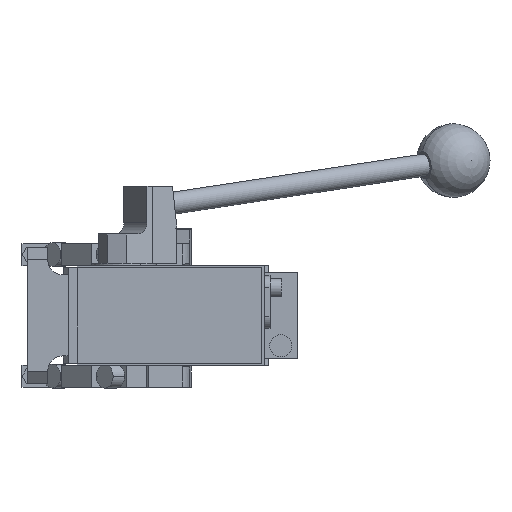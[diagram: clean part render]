
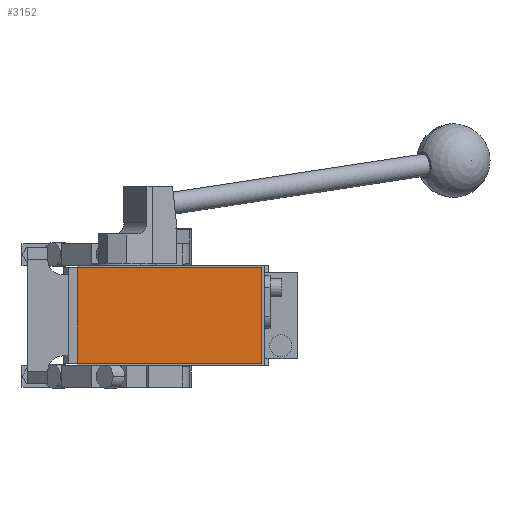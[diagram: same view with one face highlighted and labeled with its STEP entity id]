
A CAD part, front view. The second image highlights one B-rep face of the part: STEP entity #3152.
In plain terms, the highlighted planar face has unit normal (0, -1, 0).
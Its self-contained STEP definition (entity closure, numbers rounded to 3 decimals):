
#104 = EDGE_CURVE ( 'NONE', #13049, #15028, #6447, .T. ) ;
#308 = VECTOR ( 'NONE', #12492, 1000. ) ;
#700 = CARTESIAN_POINT ( 'NONE',  ( 81., -286.5, 26. ) ) ;
#1473 = VERTEX_POINT ( 'NONE', #1774 ) ;
#1746 = LINE ( 'NONE', #12709, #15981 ) ;
#1774 = CARTESIAN_POINT ( 'NONE',  ( 81., -286.5, -26. ) ) ;
#1943 = ORIENTED_EDGE ( 'NONE', *, *, #12541, .T. ) ;
#3152 = ADVANCED_FACE ( 'NONE', ( #13020 ), #11716, .T. ) ;
#3196 = ORIENTED_EDGE ( 'NONE', *, *, #8242, .T. ) ;
#4090 = VECTOR ( 'NONE', #11899, 1000. ) ;
#4326 = EDGE_LOOP ( 'NONE', ( #10102, #8382, #3196, #1943 ) ) ;
#5036 = CARTESIAN_POINT ( 'NONE',  ( -19., -286.5, 26. ) ) ;
#5399 = AXIS2_PLACEMENT_3D ( 'NONE', #14339, #5411, #9173 ) ;
#5411 = DIRECTION ( 'NONE',  ( 0., -1., 0. ) ) ;
#5745 = LINE ( 'NONE', #700, #4090 ) ;
#6281 = CARTESIAN_POINT ( 'NONE',  ( -19., -286.5, -26. ) ) ;
#6447 = LINE ( 'NONE', #8808, #308 ) ;
#6797 = LINE ( 'NONE', #13356, #11102 ) ;
#6867 = CARTESIAN_POINT ( 'NONE',  ( 81., -286.5, 26. ) ) ;
#8242 = EDGE_CURVE ( 'NONE', #1473, #15539, #5745, .T. ) ;
#8382 = ORIENTED_EDGE ( 'NONE', *, *, #9417, .T. ) ;
#8808 = CARTESIAN_POINT ( 'NONE',  ( -19., -286.5, 26. ) ) ;
#9173 = DIRECTION ( 'NONE',  ( 0., 0., -1. ) ) ;
#9417 = EDGE_CURVE ( 'NONE', #15028, #1473, #1746, .T. ) ;
#10102 = ORIENTED_EDGE ( 'NONE', *, *, #104, .T. ) ;
#11102 = VECTOR ( 'NONE', #11807, 1000. ) ;
#11716 = PLANE ( 'NONE',  #5399 ) ;
#11807 = DIRECTION ( 'NONE',  ( -1., 0., 0. ) ) ;
#11899 = DIRECTION ( 'NONE',  ( 0., 0., 1. ) ) ;
#12492 = DIRECTION ( 'NONE',  ( 0., 0., -1. ) ) ;
#12541 = EDGE_CURVE ( 'NONE', #15539, #13049, #6797, .T. ) ;
#12709 = CARTESIAN_POINT ( 'NONE',  ( -19., -286.5, -26. ) ) ;
#13020 = FACE_OUTER_BOUND ( 'NONE', #4326, .T. ) ;
#13049 = VERTEX_POINT ( 'NONE', #5036 ) ;
#13356 = CARTESIAN_POINT ( 'NONE',  ( -19., -286.5, 26. ) ) ;
#13948 = DIRECTION ( 'NONE',  ( 1., 0., 0. ) ) ;
#14339 = CARTESIAN_POINT ( 'NONE',  ( 0., -286.5, 0. ) ) ;
#15028 = VERTEX_POINT ( 'NONE', #6281 ) ;
#15539 = VERTEX_POINT ( 'NONE', #6867 ) ;
#15981 = VECTOR ( 'NONE', #13948, 1000. ) ;
